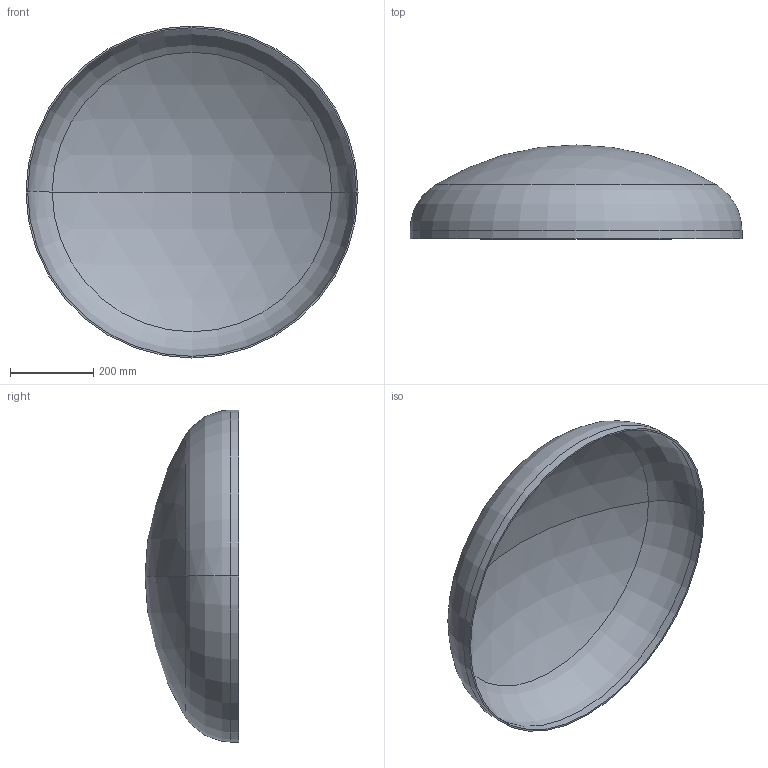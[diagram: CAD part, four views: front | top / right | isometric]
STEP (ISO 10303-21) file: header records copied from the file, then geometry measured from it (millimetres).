
FILE_DESCRIPTION (( 'STEP AP203' ), '1' );
FILE_NAME ('DIN 28013 Korbbogenform_-_Boden DIN 28013 - 800 x 20 - I - s=4.step', '2016-07-01T08:11:38', ( '' ), ( '' ), 'SwSTEP 2.0', 'SolidWorks 2013', '' );
FILE_SCHEMA (( 'CONFIG_CONTROL_DESIGN' ));
Length unit declared in the file: millimetre
Products named in the file (1): DIN 28013 Korbbogenform_-_Boden DIN 28013 - 800 x 20 - I - s=4
Bounding box: 800 x 226.07 x 800 mm (x, y, z)
Volume: 2974363.2 mm3; surface area: 1497217.4 mm2
Topology: 1 solids, 1 shells, 13 faces, 24 edges, 14 vertices
Faces by surface type: torus 4, cylinder 4, sphere 4, plane 1
Entity records: 407 total; most frequent: DIRECTION 72, CARTESIAN_POINT 52, ORIENTED_EDGE 48, AXIS2_PLACEMENT_3D 34, EDGE_CURVE 24, CIRCLE 20, VERTEX_POINT 14, EDGE_LOOP 14
